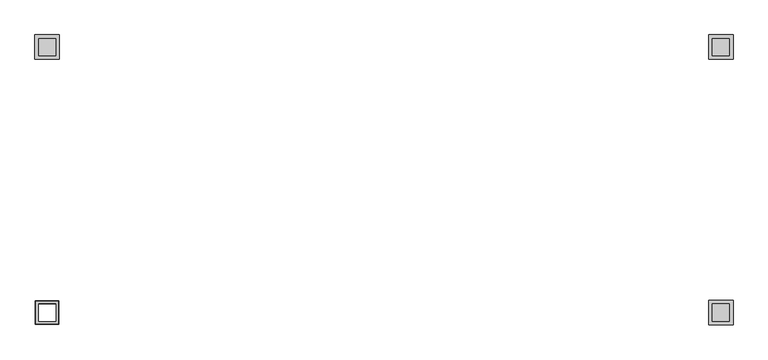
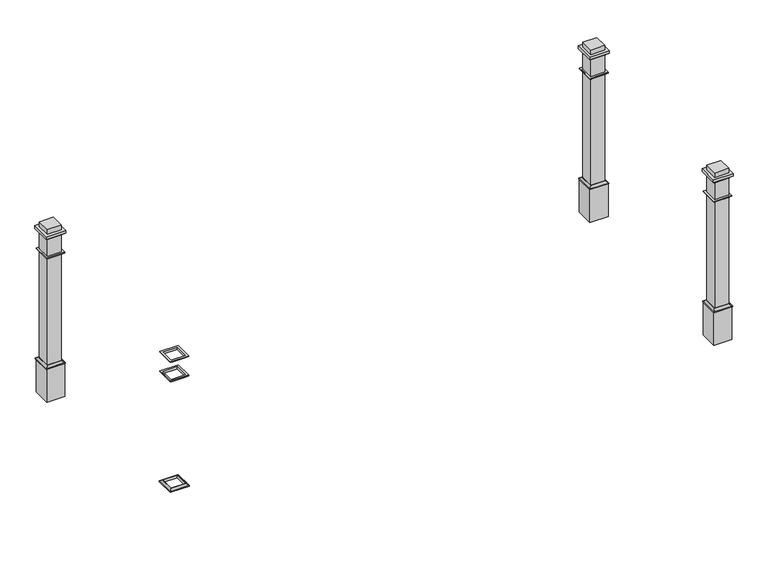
"""IFC4 building model written with IfcOpenShell, lengths in millimetres: railing geometry, Deco Type."""

from ifc_helpers import new_model, si_unit, frame, origin, place, context, project, spatial, polyline, ellipse_curve, outline, extrude, faceted_brep, source, transform, mapped, element, save
from ifc_brep_helpers import plane_surface, revolved_surface, advanced_brep


def railing_b1776e66(model_context):
    return source(origin(), model_context, "Body", "SolidModel", [
        advanced_brep(
        [(5407.8905852, -9796.5505549, 101.6), (5287.2405852, -9796.5505549, 101.6), (5287.2405852, -9796.5505549, 123.825), (5407.8905852, -9796.5505549, 123.825), (5430.1155852, -9818.7755549, 107.95), (5265.0155852, -9818.7755549, 107.95), (5265.0155852, -9818.7755549, 101.6), (5430.1155852, -9818.7755549, 101.6), (5414.2405852, -9802.9005549, 123.825), (5280.8905852, -9802.9005549, 123.825), (5287.2405852, -9675.9005549, 101.6), (5287.2405852, -9675.9005549, 123.825), (5265.0155852, -9653.6755549, 107.95), (5265.0155852, -9653.6755549, 101.6), (5280.8905852, -9669.5505549, 123.825), (5407.8905852, -9675.9005549, 101.6), (5407.8905852, -9675.9005549, 123.825), (5430.1155852, -9653.6755549, 107.95), (5430.1155852, -9653.6755549, 101.6), (5414.2405852, -9669.5505549, 123.825)],
        [
            (0, 1),
            (1, 2),
            (2, 3),
            (3, 0),
            (4, 5),
            (5, 6),
            (6, 7),
            (7, 4),
            (8, 9),
            (9, 5, ellipse_curve(frame((5265.0155852, -9818.7755549, 123.825), z_axis=(-0.7071067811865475, 0.7071067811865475, 0.0), x_axis=(-0.7071067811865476, -0.7071067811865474, 0.0)), 22.4506403, 15.875)),
            (4, 8, ellipse_curve(frame((5430.1155852, -9818.7755549, 123.825), z_axis=(0.7071067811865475, 0.7071067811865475, 0.0), x_axis=(-0.7071067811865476, 0.7071067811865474, 0.0)), 22.4506403, 15.875)),
            (1, 10),
            (10, 11),
            (11, 2),
            (5, 12),
            (12, 13),
            (13, 6),
            (9, 14),
            (14, 12, ellipse_curve(frame((5265.0155852, -9653.6755549, 123.825), z_axis=(0.7071067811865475, 0.7071067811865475, 0.0), x_axis=(-0.7071067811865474, 0.7071067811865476, 0.0)), 22.4506403, 15.875)),
            (10, 15),
            (15, 16),
            (16, 11),
            (12, 17),
            (17, 18),
            (18, 13),
            (14, 19),
            (19, 17, ellipse_curve(frame((5430.1155852, -9653.6755549, 123.825), z_axis=(0.7071067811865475, -0.7071067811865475, 0.0), x_axis=(0.7071067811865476, 0.7071067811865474, 0.0)), 22.4506403, 15.875)),
            (15, 0),
            (3, 16),
            (18, 7),
            (17, 4),
            (19, 8),
        ],
        [
            plane_surface(frame((5407.8905852, -9796.5505549, 123.825), z_axis=(0.0, 1.0, 0.0), x_axis=(-1.0, 0.0, 0.0))),
            plane_surface(frame((5430.1155852, -9818.7755549, 101.6), z_axis=(0.0, -1.0, 0.0), x_axis=(-1.0, 0.0, 0.0))),
            revolved_surface(polyline([(5249.14058520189, -9802.9005549, 123.825), (5445.99058519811, -9802.9005549, 123.825)]), (5407.8905852, -9818.7755549, 123.825), (-1.0, 0.0, 0.0)),
            plane_surface(frame((5287.2405852, -9796.5505549, 123.825), z_axis=(1.0, 0.0, 0.0), x_axis=(0.0, 1.0, 0.0))),
            plane_surface(frame((5265.0155852, -9818.7755549, 101.6), z_axis=(-1.0, 0.0, 0.0), x_axis=(0.0, 1.0, 0.0))),
            revolved_surface(polyline([(5280.8905852, -9637.80055490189, 123.825), (5280.8905852, -9834.65055489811, 123.825)]), (5265.0155852, -9796.5505549, 123.825), (0.0, 1.0, 0.0)),
            plane_surface(frame((5287.2405852, -9675.9005549, 123.825), z_axis=(0.0, -1.0, 0.0), x_axis=(1.0, 0.0, 0.0))),
            plane_surface(frame((5265.0155852, -9653.6755549, 101.6), z_axis=(0.0, 1.0, 0.0), x_axis=(1.0, 0.0, 0.0))),
            revolved_surface(polyline([(5445.99058519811, -9669.5505549, 123.825), (5249.14058520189, -9669.5505549, 123.825)]), (5287.2405852, -9653.6755549, 123.825), (1.0, 0.0, 0.0)),
            plane_surface(frame((5407.8905852, -9675.9005549, 123.825), z_axis=(-1.0, 0.0, 0.0), x_axis=(0.0, -1.0, 0.0))),
            plane_surface(frame((5407.8905852, -9675.9005549, 101.6), z_axis=(0.0, 0.0, -1.0), x_axis=(0.0, -1.0, 0.0))),
            plane_surface(frame((5430.1155852, -9653.6755549, 101.6), z_axis=(1.0, 0.0, 0.0), x_axis=(0.0, -1.0, 0.0))),
            revolved_surface(polyline([(5414.2405852, -9834.65055489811, 123.825), (5414.2405852, -9637.80055490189, 123.825)]), (5430.1155852, -9675.9005549, 123.825), (0.0, -1.0, 0.0)),
            plane_surface(frame((5414.2405852, -9669.5505549, 123.825), z_axis=(0.0, 0.0, 1.0), x_axis=(0.0, -1.0, 0.0))),
        ],
        [
            (0, [[1, 2, 3, 4]]),
            (1, [[5, 6, 7, 8]]),
            (2, [[9, 10, -5, 11]]),
            (3, [[12, 13, 14, -2]]),
            (4, [[15, 16, 17, -6]]),
            (5, [[18, 19, -15, -10]]),
            (6, [[20, 21, 22, -13]]),
            (7, [[23, 24, 25, -16]]),
            (8, [[26, 27, -23, -19]]),
            (9, [[28, -4, 29, -21]]),
            (10, [[-7, -17, -25, 30], [-1, -28, -20, -12]]),
            (11, [[31, -8, -30, -24]]),
            (12, [[32, -11, -31, -27]]),
            (13, [[-9, -32, -26, -18], [-3, -14, -22, -29]]),
        ],
    ),
        advanced_brep(
        [(5407.8905852, -9796.5505549, 1108.075), (5287.2405852, -9796.5505549, 1108.075), (5287.2405852, -9796.5505549, 1127.125), (5407.8905852, -9796.5505549, 1127.125), (5426.9405852, -9815.6005549, 1120.775), (5268.1905852, -9815.6005549, 1120.775), (5280.8905852, -9802.9005549, 1108.075), (5414.2405852, -9802.9005549, 1108.075), (5426.9405852, -9815.6005549, 1127.125), (5268.1905852, -9815.6005549, 1127.125), (5287.2405852, -9675.9005549, 1108.075), (5287.2405852, -9675.9005549, 1127.125), (5268.1905852, -9656.8505549, 1120.775), (5280.8905852, -9669.5505549, 1108.075), (5268.1905852, -9656.8505549, 1127.125), (5407.8905852, -9675.9005549, 1108.075), (5407.8905852, -9675.9005549, 1127.125), (5426.9405852, -9656.8505549, 1120.775), (5414.2405852, -9669.5505549, 1108.075), (5426.9405852, -9656.8505549, 1127.125)],
        [
            (0, 1),
            (1, 2),
            (2, 3),
            (3, 0),
            (4, 5),
            (5, 6, ellipse_curve(frame((5268.1905852, -9815.6005549, 1108.075), z_axis=(-0.7071067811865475, 0.7071067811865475, 0.0), x_axis=(-0.7071067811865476, -0.7071067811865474, 0.0)), 17.9605122, 12.7)),
            (6, 7),
            (7, 4, ellipse_curve(frame((5426.9405852, -9815.6005549, 1108.075), z_axis=(0.7071067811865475, 0.7071067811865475, 0.0), x_axis=(-0.7071067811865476, 0.7071067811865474, 0.0)), 17.9605122, 12.7)),
            (8, 9),
            (9, 5),
            (4, 8),
            (1, 10),
            (10, 11),
            (11, 2),
            (5, 12),
            (12, 13, ellipse_curve(frame((5268.1905852, -9656.8505549, 1108.075), z_axis=(0.7071067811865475, 0.7071067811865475, 0.0), x_axis=(-0.7071067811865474, 0.7071067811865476, 0.0)), 17.9605122, 12.7)),
            (13, 6),
            (9, 14),
            (14, 12),
            (10, 15),
            (15, 16),
            (16, 11),
            (12, 17),
            (17, 18, ellipse_curve(frame((5426.9405852, -9656.8505549, 1108.075), z_axis=(0.7071067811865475, -0.7071067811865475, 0.0), x_axis=(0.7071067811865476, 0.7071067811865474, 0.0)), 17.9605122, 12.7)),
            (18, 13),
            (14, 19),
            (19, 17),
            (8, 19),
            (16, 3),
            (15, 0),
            (18, 7),
            (17, 4),
        ],
        [
            plane_surface(frame((5407.8905852, -9796.5505549, 1127.125), z_axis=(0.0, 1.0, 0.0), x_axis=(-1.0, 0.0, 0.0))),
            revolved_surface(polyline([(5255.490585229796, -9802.9005549, 1108.075), (5439.640585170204, -9802.9005549, 1108.075)]), (5407.8905852, -9815.6005549, 1108.075), (-1.0, 0.0, 0.0)),
            plane_surface(frame((5426.9405852, -9815.6005549, 1120.775), z_axis=(0.0, -1.0, 0.0), x_axis=(-1.0, 0.0, 0.0))),
            plane_surface(frame((5287.2405852, -9796.5505549, 1127.125), z_axis=(1.0, 0.0, 0.0), x_axis=(0.0, 1.0, 0.0))),
            revolved_surface(polyline([(5280.8905852, -9644.150554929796, 1108.075), (5280.8905852, -9828.300554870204, 1108.075)]), (5268.1905852, -9796.5505549, 1108.075), (0.0, 1.0, 0.0)),
            plane_surface(frame((5268.1905852, -9815.6005549, 1120.775), z_axis=(-1.0, 0.0, 0.0), x_axis=(0.0, 1.0, 0.0))),
            plane_surface(frame((5287.2405852, -9675.9005549, 1127.125), z_axis=(0.0, -1.0, 0.0), x_axis=(1.0, 0.0, 0.0))),
            revolved_surface(polyline([(5439.640585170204, -9669.5505549, 1108.075), (5255.490585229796, -9669.5505549, 1108.075)]), (5287.2405852, -9656.8505549, 1108.075), (1.0, 0.0, 0.0)),
            plane_surface(frame((5268.1905852, -9656.8505549, 1120.775), z_axis=(0.0, 1.0, 0.0), x_axis=(1.0, 0.0, 0.0))),
            plane_surface(frame((5426.9405852, -9656.8505549, 1127.125), z_axis=(0.0, 0.0, 1.0), x_axis=(0.0, -1.0, 0.0))),
            plane_surface(frame((5407.8905852, -9675.9005549, 1127.125), z_axis=(-1.0, 0.0, 0.0), x_axis=(0.0, -1.0, 0.0))),
            plane_surface(frame((5407.8905852, -9675.9005549, 1108.075), z_axis=(0.0, 0.0, -1.0), x_axis=(0.0, -1.0, 0.0))),
            revolved_surface(polyline([(5414.2405852, -9828.300554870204, 1108.075), (5414.2405852, -9644.150554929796, 1108.075)]), (5426.9405852, -9675.9005549, 1108.075), (0.0, -1.0, 0.0)),
            plane_surface(frame((5426.9405852, -9656.8505549, 1120.775), z_axis=(1.0, 0.0, 0.0), x_axis=(0.0, -1.0, 0.0))),
        ],
        [
            (0, [[1, 2, 3, 4]]),
            (1, [[5, 6, 7, 8]]),
            (2, [[9, 10, -5, 11]]),
            (3, [[12, 13, 14, -2]]),
            (4, [[15, 16, 17, -6]]),
            (5, [[18, 19, -15, -10]]),
            (6, [[20, 21, 22, -13]]),
            (7, [[23, 24, 25, -16]]),
            (8, [[26, 27, -23, -19]]),
            (9, [[-9, 28, -26, -18], [-3, -14, -22, 29]]),
            (10, [[30, -4, -29, -21]]),
            (11, [[-7, -17, -25, 31], [-1, -30, -20, -12]]),
            (12, [[32, -8, -31, -24]]),
            (13, [[-28, -11, -32, -27]]),
        ],
    ),
        faceted_brep([(5407.8905852, -9796.5505549, 1285.875), (5287.2405852, -9796.5505549, 1285.875), (5287.2405852, -9796.5505549, 1304.925), (5407.8905852, -9796.5505549, 1304.925), (5414.2405852, -9802.9005549, 1298.575), (5280.8905852, -9802.9005549, 1298.575), (5280.8905852, -9802.9005549, 1285.875), (5414.2405852, -9802.9005549, 1285.875), (5426.9405852, -9815.6005549, 1304.925), (5268.1905852, -9815.6005549, 1304.925), (5268.1905852, -9815.6005549, 1298.575), (5426.9405852, -9815.6005549, 1298.575), (5287.2405852, -9675.9005549, 1285.875), (5287.2405852, -9675.9005549, 1304.925), (5280.8905852, -9669.5505549, 1298.575), (5280.8905852, -9669.5505549, 1285.875), (5268.1905852, -9656.8505549, 1304.925), (5268.1905852, -9656.8505549, 1298.575), (5407.8905852, -9675.9005549, 1285.875), (5407.8905852, -9675.9005549, 1304.925), (5414.2405852, -9669.5505549, 1298.575), (5414.2405852, -9669.5505549, 1285.875), (5426.9405852, -9656.8505549, 1304.925), (5426.9405852, -9656.8505549, 1298.575)], [[[0, 1, 2, 3]], [[4, 5, 6, 7]], [[8, 9, 10, 11]], [[1, 12, 13, 2]], [[5, 14, 15, 6]], [[9, 16, 17, 10]], [[12, 18, 19, 13]], [[14, 20, 21, 15]], [[16, 22, 23, 17]], [[18, 0, 3, 19]], [[7, 6, 15, 21], [1, 0, 18, 12]], [[20, 4, 7, 21]], [[11, 10, 17, 23], [5, 4, 20, 14]], [[22, 8, 11, 23]], [[9, 8, 22, 16], [3, 2, 13, 19]]]),
        extrude(outline(polyline([(10010.8468352, -9656.8505549), (10169.5968352, -9656.8505549), (10169.5968352, -9815.6005549), (10010.8468352, -9815.6005549), (10010.8468352, -9656.8505549)])), frame((0.0, 0.0, -203.2), z_axis=(0.0, 0.0, 1.0), x_axis=(1.0, 0.0, 0.0)), (0.0, 0.0, 1.0), 304.8),
        extrude(outline(polyline([(10029.8968352, -9675.9005549), (10150.5468352, -9675.9005549), (10150.5468352, -9796.5505549), (10029.8968352, -9796.5505549), (10029.8968352, -9675.9005549)])), frame((0.0, 0.0, 101.6), z_axis=(0.0, 0.0, 1.0), x_axis=(1.0, 0.0, 0.0)), (0.0, 0.0, 1.0), 1270.0),
        extrude(outline(polyline([(10175.9468352, -9650.5005549), (10175.9468352, -9821.9505549), (10004.4968352, -9821.9505549), (10004.4968352, -9650.5005549), (10175.9468352, -9650.5005549)]), holes=[polyline([(10150.5468352, -9796.5505549), (10150.5468352, -9675.9005549), (10029.8968352, -9675.9005549), (10029.8968352, -9796.5505549), (10150.5468352, -9796.5505549)])]), frame((0.0, 0.0, 1304.925), z_axis=(0.0, 0.0, 1.0), x_axis=(1.0, 0.0, 0.0)), (0.0, 0.0, 1.0), 25.4),
        advanced_brep(
        [(10150.5468352, -9675.9005549, 101.6), (10150.5468352, -9796.5505549, 101.6), (10150.5468352, -9796.5505549, 123.825), (10150.5468352, -9675.9005549, 123.825), (10172.7718352, -9653.6755549, 107.95), (10172.7718352, -9818.7755549, 107.95), (10172.7718352, -9818.7755549, 101.6), (10172.7718352, -9653.6755549, 101.6), (10156.8968352, -9669.5505549, 123.825), (10156.8968352, -9802.9005549, 123.825), (10029.8968352, -9796.5505549, 101.6), (10029.8968352, -9796.5505549, 123.825), (10007.6718352, -9818.7755549, 107.95), (10007.6718352, -9818.7755549, 101.6), (10023.5468352, -9802.9005549, 123.825), (10029.8968352, -9675.9005549, 101.6), (10029.8968352, -9675.9005549, 123.825), (10007.6718352, -9653.6755549, 107.95), (10007.6718352, -9653.6755549, 101.6), (10023.5468352, -9669.5505549, 123.825)],
        [
            (0, 1),
            (1, 2),
            (2, 3),
            (3, 0),
            (4, 5),
            (5, 6),
            (6, 7),
            (7, 4),
            (8, 9),
            (9, 5, ellipse_curve(frame((10172.7718352, -9818.7755549, 123.825), z_axis=(-0.7071067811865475, -0.7071067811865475, 0.0), x_axis=(0.7071067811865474, -0.7071067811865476, 0.0)), 22.4506403, 15.875)),
            (4, 8, ellipse_curve(frame((10172.7718352, -9653.6755549, 123.825), z_axis=(-0.7071067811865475, 0.7071067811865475, 0.0), x_axis=(-0.7071067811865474, -0.7071067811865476, 0.0)), 22.4506403, 15.875)),
            (1, 10),
            (10, 11),
            (11, 2),
            (5, 12),
            (12, 13),
            (13, 6),
            (9, 14),
            (14, 12, ellipse_curve(frame((10007.6718352, -9818.7755549, 123.825), z_axis=(-0.7071067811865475, 0.7071067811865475, 0.0), x_axis=(-0.7071067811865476, -0.7071067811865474, 0.0)), 22.4506403, 15.875)),
            (10, 15),
            (15, 16),
            (16, 11),
            (12, 17),
            (17, 18),
            (18, 13),
            (14, 19),
            (19, 17, ellipse_curve(frame((10007.6718352, -9653.6755549, 123.825), z_axis=(0.7071067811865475, 0.7071067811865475, 0.0), x_axis=(-0.7071067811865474, 0.7071067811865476, 0.0)), 22.4506403, 15.875)),
            (15, 0),
            (3, 16),
            (18, 7),
            (17, 4),
            (19, 8),
        ],
        [
            plane_surface(frame((10150.5468352, -9675.9005549, 123.825), z_axis=(-1.0, 0.0, 0.0), x_axis=(0.0, -1.0, 0.0))),
            plane_surface(frame((10172.7718352, -9653.6755549, 101.6), z_axis=(1.0, 0.0, 0.0), x_axis=(0.0, -1.0, 0.0))),
            revolved_surface(polyline([(10156.8968352, -9834.65055489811, 123.825), (10156.8968352, -9637.80055490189, 123.825)]), (10172.7718352, -9675.9005549, 123.825), (0.0, -1.0, 0.0)),
            plane_surface(frame((10150.5468352, -9796.5505549, 123.825), z_axis=(0.0, 1.0, 0.0), x_axis=(-1.0, 0.0, 0.0))),
            plane_surface(frame((10172.7718352, -9818.7755549, 101.6), z_axis=(0.0, -1.0, 0.0), x_axis=(-1.0, 0.0, 0.0))),
            revolved_surface(polyline([(9991.79683520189, -9802.9005549, 123.825), (10188.64683519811, -9802.9005549, 123.825)]), (10150.5468352, -9818.7755549, 123.825), (-1.0, 0.0, 0.0)),
            plane_surface(frame((10029.8968352, -9796.5505549, 123.825), z_axis=(1.0, 0.0, 0.0), x_axis=(0.0, 1.0, 0.0))),
            plane_surface(frame((10007.6718352, -9818.7755549, 101.6), z_axis=(-1.0, 0.0, 0.0), x_axis=(0.0, 1.0, 0.0))),
            revolved_surface(polyline([(10023.5468352, -9637.80055490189, 123.825), (10023.5468352, -9834.65055489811, 123.825)]), (10007.6718352, -9796.5505549, 123.825), (0.0, 1.0, 0.0)),
            plane_surface(frame((10029.8968352, -9675.9005549, 123.825), z_axis=(0.0, -1.0, 0.0), x_axis=(1.0, 0.0, 0.0))),
            plane_surface(frame((10029.8968352, -9675.9005549, 101.6), z_axis=(0.0, 0.0, -1.0), x_axis=(1.0, 0.0, 0.0))),
            plane_surface(frame((10007.6718352, -9653.6755549, 101.6), z_axis=(0.0, 1.0, 0.0), x_axis=(1.0, 0.0, 0.0))),
            revolved_surface(polyline([(10188.64683519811, -9669.5505549, 123.825), (9991.79683520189, -9669.5505549, 123.825)]), (10029.8968352, -9653.6755549, 123.825), (1.0, 0.0, 0.0)),
            plane_surface(frame((10023.5468352, -9669.5505549, 123.825), z_axis=(0.0, 0.0, 1.0), x_axis=(1.0, 0.0, 0.0))),
        ],
        [
            (0, [[1, 2, 3, 4]]),
            (1, [[5, 6, 7, 8]]),
            (2, [[9, 10, -5, 11]]),
            (3, [[12, 13, 14, -2]]),
            (4, [[15, 16, 17, -6]]),
            (5, [[18, 19, -15, -10]]),
            (6, [[20, 21, 22, -13]]),
            (7, [[23, 24, 25, -16]]),
            (8, [[26, 27, -23, -19]]),
            (9, [[28, -4, 29, -21]]),
            (10, [[-7, -17, -25, 30], [-1, -28, -20, -12]]),
            (11, [[31, -8, -30, -24]]),
            (12, [[32, -11, -31, -27]]),
            (13, [[-9, -32, -26, -18], [-3, -14, -22, -29]]),
        ],
    ),
        advanced_brep(
        [(10150.5468352, -9675.9005549, 1108.075), (10150.5468352, -9796.5505549, 1108.075), (10150.5468352, -9796.5505549, 1127.125), (10150.5468352, -9675.9005549, 1127.125), (10169.5968352, -9656.8505549, 1120.775), (10169.5968352, -9815.6005549, 1120.775), (10156.8968352, -9802.9005549, 1108.075), (10156.8968352, -9669.5505549, 1108.075), (10169.5968352, -9656.8505549, 1127.125), (10169.5968352, -9815.6005549, 1127.125), (10029.8968352, -9796.5505549, 1108.075), (10029.8968352, -9796.5505549, 1127.125), (10010.8468352, -9815.6005549, 1120.775), (10023.5468352, -9802.9005549, 1108.075), (10010.8468352, -9815.6005549, 1127.125), (10029.8968352, -9675.9005549, 1108.075), (10029.8968352, -9675.9005549, 1127.125), (10010.8468352, -9656.8505549, 1120.775), (10023.5468352, -9669.5505549, 1108.075), (10010.8468352, -9656.8505549, 1127.125)],
        [
            (0, 1),
            (1, 2),
            (2, 3),
            (3, 0),
            (4, 5),
            (5, 6, ellipse_curve(frame((10169.5968352, -9815.6005549, 1108.075), z_axis=(-0.7071067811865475, -0.7071067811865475, 0.0), x_axis=(0.7071067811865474, -0.7071067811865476, 0.0)), 17.9605122, 12.7)),
            (6, 7),
            (7, 4, ellipse_curve(frame((10169.5968352, -9656.8505549, 1108.075), z_axis=(-0.7071067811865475, 0.7071067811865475, 0.0), x_axis=(-0.7071067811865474, -0.7071067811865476, 0.0)), 17.9605122, 12.7)),
            (8, 9),
            (9, 5),
            (4, 8),
            (1, 10),
            (10, 11),
            (11, 2),
            (5, 12),
            (12, 13, ellipse_curve(frame((10010.8468352, -9815.6005549, 1108.075), z_axis=(-0.7071067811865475, 0.7071067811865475, 0.0), x_axis=(-0.7071067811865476, -0.7071067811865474, 0.0)), 17.9605122, 12.7)),
            (13, 6),
            (9, 14),
            (14, 12),
            (10, 15),
            (15, 16),
            (16, 11),
            (12, 17),
            (17, 18, ellipse_curve(frame((10010.8468352, -9656.8505549, 1108.075), z_axis=(0.7071067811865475, 0.7071067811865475, 0.0), x_axis=(-0.7071067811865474, 0.7071067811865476, 0.0)), 17.9605122, 12.7)),
            (18, 13),
            (14, 19),
            (19, 17),
            (8, 19),
            (16, 3),
            (15, 0),
            (18, 7),
            (17, 4),
        ],
        [
            plane_surface(frame((10150.5468352, -9675.9005549, 1127.125), z_axis=(-1.0, 0.0, 0.0), x_axis=(0.0, -1.0, 0.0))),
            revolved_surface(polyline([(10156.8968352, -9828.300554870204, 1108.075), (10156.8968352, -9644.150554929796, 1108.075)]), (10169.5968352, -9675.9005549, 1108.075), (0.0, -1.0, 0.0)),
            plane_surface(frame((10169.5968352, -9656.8505549, 1120.775), z_axis=(1.0, 0.0, 0.0), x_axis=(0.0, -1.0, 0.0))),
            plane_surface(frame((10150.5468352, -9796.5505549, 1127.125), z_axis=(0.0, 1.0, 0.0), x_axis=(-1.0, 0.0, 0.0))),
            revolved_surface(polyline([(9998.146835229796, -9802.9005549, 1108.075), (10182.296835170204, -9802.9005549, 1108.075)]), (10150.5468352, -9815.6005549, 1108.075), (-1.0, 0.0, 0.0)),
            plane_surface(frame((10169.5968352, -9815.6005549, 1120.775), z_axis=(0.0, -1.0, 0.0), x_axis=(-1.0, 0.0, 0.0))),
            plane_surface(frame((10029.8968352, -9796.5505549, 1127.125), z_axis=(1.0, 0.0, 0.0), x_axis=(0.0, 1.0, 0.0))),
            revolved_surface(polyline([(10023.5468352, -9644.150554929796, 1108.075), (10023.5468352, -9828.300554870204, 1108.075)]), (10010.8468352, -9796.5505549, 1108.075), (0.0, 1.0, 0.0)),
            plane_surface(frame((10010.8468352, -9815.6005549, 1120.775), z_axis=(-1.0, 0.0, 0.0), x_axis=(0.0, 1.0, 0.0))),
            plane_surface(frame((10010.8468352, -9656.8505549, 1127.125), z_axis=(0.0, 0.0, 1.0), x_axis=(1.0, 0.0, 0.0))),
            plane_surface(frame((10029.8968352, -9675.9005549, 1127.125), z_axis=(0.0, -1.0, 0.0), x_axis=(1.0, 0.0, 0.0))),
            plane_surface(frame((10029.8968352, -9675.9005549, 1108.075), z_axis=(0.0, 0.0, -1.0), x_axis=(1.0, 0.0, 0.0))),
            revolved_surface(polyline([(10182.296835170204, -9669.5505549, 1108.075), (9998.146835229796, -9669.5505549, 1108.075)]), (10029.8968352, -9656.8505549, 1108.075), (1.0, 0.0, 0.0)),
            plane_surface(frame((10010.8468352, -9656.8505549, 1120.775), z_axis=(0.0, 1.0, 0.0), x_axis=(1.0, 0.0, 0.0))),
        ],
        [
            (0, [[1, 2, 3, 4]]),
            (1, [[5, 6, 7, 8]]),
            (2, [[9, 10, -5, 11]]),
            (3, [[12, 13, 14, -2]]),
            (4, [[15, 16, 17, -6]]),
            (5, [[18, 19, -15, -10]]),
            (6, [[20, 21, 22, -13]]),
            (7, [[23, 24, 25, -16]]),
            (8, [[26, 27, -23, -19]]),
            (9, [[-9, 28, -26, -18], [-3, -14, -22, 29]]),
            (10, [[30, -4, -29, -21]]),
            (11, [[-7, -17, -25, 31], [-1, -30, -20, -12]]),
            (12, [[32, -8, -31, -24]]),
            (13, [[-28, -11, -32, -27]]),
        ],
    ),
        faceted_brep([(10150.5468352, -9675.9005549, 1285.875), (10150.5468352, -9796.5505549, 1285.875), (10150.5468352, -9796.5505549, 1304.925), (10150.5468352, -9675.9005549, 1304.925), (10156.8968352, -9669.5505549, 1298.575), (10156.8968352, -9802.9005549, 1298.575), (10156.8968352, -9802.9005549, 1285.875), (10156.8968352, -9669.5505549, 1285.875), (10169.5968352, -9656.8505549, 1304.925), (10169.5968352, -9815.6005549, 1304.925), (10169.5968352, -9815.6005549, 1298.575), (10169.5968352, -9656.8505549, 1298.575), (10029.8968352, -9796.5505549, 1285.875), (10029.8968352, -9796.5505549, 1304.925), (10023.5468352, -9802.9005549, 1298.575), (10023.5468352, -9802.9005549, 1285.875), (10010.8468352, -9815.6005549, 1304.925), (10010.8468352, -9815.6005549, 1298.575), (10029.8968352, -9675.9005549, 1285.875), (10029.8968352, -9675.9005549, 1304.925), (10023.5468352, -9669.5505549, 1298.575), (10023.5468352, -9669.5505549, 1285.875), (10010.8468352, -9656.8505549, 1304.925), (10010.8468352, -9656.8505549, 1298.575)], [[[0, 1, 2, 3]], [[4, 5, 6, 7]], [[8, 9, 10, 11]], [[1, 12, 13, 2]], [[5, 14, 15, 6]], [[9, 16, 17, 10]], [[12, 18, 19, 13]], [[14, 20, 21, 15]], [[16, 22, 23, 17]], [[18, 0, 3, 19]], [[7, 6, 15, 21], [1, 0, 18, 12]], [[20, 4, 7, 21]], [[11, 10, 17, 23], [5, 4, 20, 14]], [[22, 8, 11, 23]], [[9, 8, 22, 16], [3, 2, 13, 19]]]),
        extrude(outline(polyline([(5426.9405852, -7943.5411799), (5268.1905852, -7943.5411799), (5268.1905852, -7784.7911799), (5426.9405852, -7784.7911799), (5426.9405852, -7943.5411799)])), frame((0.0, 0.0, -203.2), z_axis=(0.0, 0.0, 1.0), x_axis=(1.0, 0.0, 0.0)), (0.0, 0.0, 1.0), 304.8),
        extrude(outline(polyline([(5407.8905852, -7924.4911799), (5287.2405852, -7924.4911799), (5287.2405852, -7803.8411799), (5407.8905852, -7803.8411799), (5407.8905852, -7924.4911799)])), frame((0.0, 0.0, 101.6), z_axis=(0.0, 0.0, 1.0), x_axis=(1.0, 0.0, 0.0)), (0.0, 0.0, 1.0), 1270.0),
        extrude(outline(polyline([(5261.8405852, -7949.8911799), (5261.8405852, -7778.4411799), (5433.2905852, -7778.4411799), (5433.2905852, -7949.8911799), (5261.8405852, -7949.8911799)]), holes=[polyline([(5287.2405852, -7803.8411799), (5287.2405852, -7924.4911799), (5407.8905852, -7924.4911799), (5407.8905852, -7803.8411799), (5287.2405852, -7803.8411799)])]), frame((0.0, 0.0, 1304.925), z_axis=(0.0, 0.0, 1.0), x_axis=(1.0, 0.0, 0.0)), (0.0, 0.0, 1.0), 25.4),
        advanced_brep(
        [(5287.2405852, -7924.4911799, 101.6), (5287.2405852, -7803.8411799, 101.6), (5287.2405852, -7803.8411799, 123.825), (5287.2405852, -7924.4911799, 123.825), (5265.0155852, -7946.7161799, 107.95), (5265.0155852, -7781.6161799, 107.95), (5265.0155852, -7781.6161799, 101.6), (5265.0155852, -7946.7161799, 101.6), (5280.8905852, -7930.8411799, 123.825), (5280.8905852, -7797.4911799, 123.825), (5407.8905852, -7803.8411799, 101.6), (5407.8905852, -7803.8411799, 123.825), (5430.1155852, -7781.6161799, 107.95), (5430.1155852, -7781.6161799, 101.6), (5414.2405852, -7797.4911799, 123.825), (5407.8905852, -7924.4911799, 101.6), (5407.8905852, -7924.4911799, 123.825), (5430.1155852, -7946.7161799, 107.95), (5430.1155852, -7946.7161799, 101.6), (5414.2405852, -7930.8411799, 123.825)],
        [
            (0, 1),
            (1, 2),
            (2, 3),
            (3, 0),
            (4, 5),
            (5, 6),
            (6, 7),
            (7, 4),
            (8, 9),
            (9, 5, ellipse_curve(frame((5265.0155852, -7781.6161799, 123.825), z_axis=(0.7071067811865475, 0.7071067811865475, 0.0), x_axis=(-0.7071067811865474, 0.7071067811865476, 0.0)), 22.4506403, 15.875)),
            (4, 8, ellipse_curve(frame((5265.0155852, -7946.7161799, 123.825), z_axis=(0.7071067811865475, -0.7071067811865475, 0.0), x_axis=(0.7071067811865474, 0.7071067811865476, 0.0)), 22.4506403, 15.875)),
            (1, 10),
            (10, 11),
            (11, 2),
            (5, 12),
            (12, 13),
            (13, 6),
            (9, 14),
            (14, 12, ellipse_curve(frame((5430.1155852, -7781.6161799, 123.825), z_axis=(0.7071067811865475, -0.7071067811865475, 0.0), x_axis=(0.7071067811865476, 0.7071067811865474, 0.0)), 22.4506403, 15.875)),
            (10, 15),
            (15, 16),
            (16, 11),
            (12, 17),
            (17, 18),
            (18, 13),
            (14, 19),
            (19, 17, ellipse_curve(frame((5430.1155852, -7946.7161799, 123.825), z_axis=(-0.7071067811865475, -0.7071067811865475, 0.0), x_axis=(0.7071067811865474, -0.7071067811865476, 0.0)), 22.4506403, 15.875)),
            (15, 0),
            (3, 16),
            (18, 7),
            (17, 4),
            (19, 8),
        ],
        [
            plane_surface(frame((5287.2405852, -7924.4911799, 123.825), z_axis=(1.0, 0.0, 0.0), x_axis=(0.0, 1.0, 0.0))),
            plane_surface(frame((5265.0155852, -7946.7161799, 101.6), z_axis=(-1.0, 0.0, 0.0), x_axis=(0.0, 1.0, 0.0))),
            revolved_surface(polyline([(5280.8905852, -7765.74117990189, 123.825), (5280.8905852, -7962.59117989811, 123.825)]), (5265.0155852, -7924.4911799, 123.825), (0.0, 1.0, 0.0)),
            plane_surface(frame((5287.2405852, -7803.8411799, 123.825), z_axis=(0.0, -1.0, 0.0), x_axis=(1.0, 0.0, 0.0))),
            plane_surface(frame((5265.0155852, -7781.6161799, 101.6), z_axis=(0.0, 1.0, 0.0), x_axis=(1.0, 0.0, 0.0))),
            revolved_surface(polyline([(5445.99058519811, -7797.4911799, 123.825), (5249.14058520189, -7797.4911799, 123.825)]), (5287.2405852, -7781.6161799, 123.825), (1.0, 0.0, 0.0)),
            plane_surface(frame((5407.8905852, -7803.8411799, 123.825), z_axis=(-1.0, 0.0, 0.0), x_axis=(0.0, -1.0, 0.0))),
            plane_surface(frame((5430.1155852, -7781.6161799, 101.6), z_axis=(1.0, 0.0, 0.0), x_axis=(0.0, -1.0, 0.0))),
            revolved_surface(polyline([(5414.2405852, -7962.59117989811, 123.825), (5414.2405852, -7765.74117990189, 123.825)]), (5430.1155852, -7803.8411799, 123.825), (0.0, -1.0, 0.0)),
            plane_surface(frame((5407.8905852, -7924.4911799, 123.825), z_axis=(0.0, 1.0, 0.0), x_axis=(-1.0, 0.0, 0.0))),
            plane_surface(frame((5407.8905852, -7924.4911799, 101.6), z_axis=(0.0, 0.0, -1.0), x_axis=(-1.0, 0.0, 0.0))),
            plane_surface(frame((5430.1155852, -7946.7161799, 101.6), z_axis=(0.0, -1.0, 0.0), x_axis=(-1.0, 0.0, 0.0))),
            revolved_surface(polyline([(5249.14058520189, -7930.8411799, 123.825), (5445.99058519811, -7930.8411799, 123.825)]), (5407.8905852, -7946.7161799, 123.825), (-1.0, 0.0, 0.0)),
            plane_surface(frame((5414.2405852, -7930.8411799, 123.825), z_axis=(0.0, 0.0, 1.0), x_axis=(-1.0, 0.0, 0.0))),
        ],
        [
            (0, [[1, 2, 3, 4]]),
            (1, [[5, 6, 7, 8]]),
            (2, [[9, 10, -5, 11]]),
            (3, [[12, 13, 14, -2]]),
            (4, [[15, 16, 17, -6]]),
            (5, [[18, 19, -15, -10]]),
            (6, [[20, 21, 22, -13]]),
            (7, [[23, 24, 25, -16]]),
            (8, [[26, 27, -23, -19]]),
            (9, [[28, -4, 29, -21]]),
            (10, [[-7, -17, -25, 30], [-1, -28, -20, -12]]),
            (11, [[31, -8, -30, -24]]),
            (12, [[32, -11, -31, -27]]),
            (13, [[-9, -32, -26, -18], [-3, -14, -22, -29]]),
        ],
    ),
        advanced_brep(
        [(5287.2405852, -7924.4911799, 1108.075), (5287.2405852, -7803.8411799, 1108.075), (5287.2405852, -7803.8411799, 1127.125), (5287.2405852, -7924.4911799, 1127.125), (5268.1905852, -7943.5411799, 1120.775), (5268.1905852, -7784.7911799, 1120.775), (5280.8905852, -7797.4911799, 1108.075), (5280.8905852, -7930.8411799, 1108.075), (5268.1905852, -7943.5411799, 1127.125), (5268.1905852, -7784.7911799, 1127.125), (5407.8905852, -7803.8411799, 1108.075), (5407.8905852, -7803.8411799, 1127.125), (5426.9405852, -7784.7911799, 1120.775), (5414.2405852, -7797.4911799, 1108.075), (5426.9405852, -7784.7911799, 1127.125), (5407.8905852, -7924.4911799, 1108.075), (5407.8905852, -7924.4911799, 1127.125), (5426.9405852, -7943.5411799, 1120.775), (5414.2405852, -7930.8411799, 1108.075), (5426.9405852, -7943.5411799, 1127.125)],
        [
            (0, 1),
            (1, 2),
            (2, 3),
            (3, 0),
            (4, 5),
            (5, 6, ellipse_curve(frame((5268.1905852, -7784.7911799, 1108.075), z_axis=(0.7071067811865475, 0.7071067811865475, 0.0), x_axis=(-0.7071067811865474, 0.7071067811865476, 0.0)), 17.9605122, 12.7)),
            (6, 7),
            (7, 4, ellipse_curve(frame((5268.1905852, -7943.5411799, 1108.075), z_axis=(0.7071067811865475, -0.7071067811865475, 0.0), x_axis=(0.7071067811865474, 0.7071067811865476, 0.0)), 17.9605122, 12.7)),
            (8, 9),
            (9, 5),
            (4, 8),
            (1, 10),
            (10, 11),
            (11, 2),
            (5, 12),
            (12, 13, ellipse_curve(frame((5426.9405852, -7784.7911799, 1108.075), z_axis=(0.7071067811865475, -0.7071067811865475, 0.0), x_axis=(0.7071067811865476, 0.7071067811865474, 0.0)), 17.9605122, 12.7)),
            (13, 6),
            (9, 14),
            (14, 12),
            (10, 15),
            (15, 16),
            (16, 11),
            (12, 17),
            (17, 18, ellipse_curve(frame((5426.9405852, -7943.5411799, 1108.075), z_axis=(-0.7071067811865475, -0.7071067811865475, 0.0), x_axis=(0.7071067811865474, -0.7071067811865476, 0.0)), 17.9605122, 12.7)),
            (18, 13),
            (14, 19),
            (19, 17),
            (8, 19),
            (16, 3),
            (15, 0),
            (18, 7),
            (17, 4),
        ],
        [
            plane_surface(frame((5287.2405852, -7924.4911799, 1127.125), z_axis=(1.0, 0.0, 0.0), x_axis=(0.0, 1.0, 0.0))),
            revolved_surface(polyline([(5280.8905852, -7772.091179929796, 1108.075), (5280.8905852, -7956.241179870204, 1108.075)]), (5268.1905852, -7924.4911799, 1108.075), (0.0, 1.0, 0.0)),
            plane_surface(frame((5268.1905852, -7943.5411799, 1120.775), z_axis=(-1.0, 0.0, 0.0), x_axis=(0.0, 1.0, 0.0))),
            plane_surface(frame((5287.2405852, -7803.8411799, 1127.125), z_axis=(0.0, -1.0, 0.0), x_axis=(1.0, 0.0, 0.0))),
            revolved_surface(polyline([(5439.640585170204, -7797.4911799, 1108.075), (5255.490585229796, -7797.4911799, 1108.075)]), (5287.2405852, -7784.7911799, 1108.075), (1.0, 0.0, 0.0)),
            plane_surface(frame((5268.1905852, -7784.7911799, 1120.775), z_axis=(0.0, 1.0, 0.0), x_axis=(1.0, 0.0, 0.0))),
            plane_surface(frame((5407.8905852, -7803.8411799, 1127.125), z_axis=(-1.0, 0.0, 0.0), x_axis=(0.0, -1.0, 0.0))),
            revolved_surface(polyline([(5414.2405852, -7956.241179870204, 1108.075), (5414.2405852, -7772.091179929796, 1108.075)]), (5426.9405852, -7803.8411799, 1108.075), (0.0, -1.0, 0.0)),
            plane_surface(frame((5426.9405852, -7784.7911799, 1120.775), z_axis=(1.0, 0.0, 0.0), x_axis=(0.0, -1.0, 0.0))),
            plane_surface(frame((5426.9405852, -7943.5411799, 1127.125), z_axis=(0.0, 0.0, 1.0), x_axis=(-1.0, 0.0, 0.0))),
            plane_surface(frame((5407.8905852, -7924.4911799, 1127.125), z_axis=(0.0, 1.0, 0.0), x_axis=(-1.0, 0.0, 0.0))),
            plane_surface(frame((5407.8905852, -7924.4911799, 1108.075), z_axis=(0.0, 0.0, -1.0), x_axis=(-1.0, 0.0, 0.0))),
            revolved_surface(polyline([(5255.490585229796, -7930.8411799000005, 1108.075), (5439.640585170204, -7930.8411799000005, 1108.075)]), (5407.8905852, -7943.5411799, 1108.075), (-1.0, 0.0, 0.0)),
            plane_surface(frame((5426.9405852, -7943.5411799, 1120.775), z_axis=(0.0, -1.0, 0.0), x_axis=(-1.0, 0.0, 0.0))),
        ],
        [
            (0, [[1, 2, 3, 4]]),
            (1, [[5, 6, 7, 8]]),
            (2, [[9, 10, -5, 11]]),
            (3, [[12, 13, 14, -2]]),
            (4, [[15, 16, 17, -6]]),
            (5, [[18, 19, -15, -10]]),
            (6, [[20, 21, 22, -13]]),
            (7, [[23, 24, 25, -16]]),
            (8, [[26, 27, -23, -19]]),
            (9, [[-9, 28, -26, -18], [-3, -14, -22, 29]]),
            (10, [[30, -4, -29, -21]]),
            (11, [[-7, -17, -25, 31], [-1, -30, -20, -12]]),
            (12, [[32, -8, -31, -24]]),
            (13, [[-28, -11, -32, -27]]),
        ],
    ),
        faceted_brep([(5287.2405852, -7924.4911799, 1285.875), (5287.2405852, -7803.8411799, 1285.875), (5287.2405852, -7803.8411799, 1304.925), (5287.2405852, -7924.4911799, 1304.925), (5280.8905852, -7930.8411799, 1298.575), (5280.8905852, -7797.4911799, 1298.575), (5280.8905852, -7797.4911799, 1285.875), (5280.8905852, -7930.8411799, 1285.875), (5268.1905852, -7943.5411799, 1304.925), (5268.1905852, -7784.7911799, 1304.925), (5268.1905852, -7784.7911799, 1298.575), (5268.1905852, -7943.5411799, 1298.575), (5407.8905852, -7803.8411799, 1285.875), (5407.8905852, -7803.8411799, 1304.925), (5414.2405852, -7797.4911799, 1298.575), (5414.2405852, -7797.4911799, 1285.875), (5426.9405852, -7784.7911799, 1304.925), (5426.9405852, -7784.7911799, 1298.575), (5407.8905852, -7924.4911799, 1285.875), (5407.8905852, -7924.4911799, 1304.925), (5414.2405852, -7930.8411799, 1298.575), (5414.2405852, -7930.8411799, 1285.875), (5426.9405852, -7943.5411799, 1304.925), (5426.9405852, -7943.5411799, 1298.575)], [[[0, 1, 2, 3]], [[4, 5, 6, 7]], [[8, 9, 10, 11]], [[1, 12, 13, 2]], [[5, 14, 15, 6]], [[9, 16, 17, 10]], [[12, 18, 19, 13]], [[14, 20, 21, 15]], [[16, 22, 23, 17]], [[18, 0, 3, 19]], [[7, 6, 15, 21], [1, 0, 18, 12]], [[20, 4, 7, 21]], [[11, 10, 17, 23], [5, 4, 20, 14]], [[22, 8, 11, 23]], [[9, 8, 22, 16], [3, 2, 13, 19]]]),
        extrude(outline(polyline([(10010.8468352, -7784.7911799), (10169.5968352, -7784.7911799), (10169.5968352, -7943.5411799), (10010.8468352, -7943.5411799), (10010.8468352, -7784.7911799)])), frame((0.0, 0.0, -203.2), z_axis=(0.0, 0.0, 1.0), x_axis=(1.0, 0.0, 0.0)), (0.0, 0.0, 1.0), 304.8),
        extrude(outline(polyline([(10029.8968352, -7803.8411799), (10150.5468352, -7803.8411799), (10150.5468352, -7924.4911799), (10029.8968352, -7924.4911799), (10029.8968352, -7803.8411799)])), frame((0.0, 0.0, 101.6), z_axis=(0.0, 0.0, 1.0), x_axis=(1.0, 0.0, 0.0)), (0.0, 0.0, 1.0), 1270.0),
        extrude(outline(polyline([(10175.9468352, -7778.4411799), (10175.9468352, -7949.8911799), (10004.4968352, -7949.8911799), (10004.4968352, -7778.4411799), (10175.9468352, -7778.4411799)]), holes=[polyline([(10150.5468352, -7924.4911799), (10150.5468352, -7803.8411799), (10029.8968352, -7803.8411799), (10029.8968352, -7924.4911799), (10150.5468352, -7924.4911799)])]), frame((0.0, 0.0, 1304.925), z_axis=(0.0, 0.0, 1.0), x_axis=(1.0, 0.0, 0.0)), (0.0, 0.0, 1.0), 25.4),
        advanced_brep(
        [(10150.5468352, -7803.8411799, 101.6), (10150.5468352, -7924.4911799, 101.6), (10150.5468352, -7924.4911799, 123.825), (10150.5468352, -7803.8411799, 123.825), (10172.7718352, -7781.6161799, 107.95), (10172.7718352, -7946.7161799, 107.95), (10172.7718352, -7946.7161799, 101.6), (10172.7718352, -7781.6161799, 101.6), (10156.8968352, -7797.4911799, 123.825), (10156.8968352, -7930.8411799, 123.825), (10029.8968352, -7924.4911799, 101.6), (10029.8968352, -7924.4911799, 123.825), (10007.6718352, -7946.7161799, 107.95), (10007.6718352, -7946.7161799, 101.6), (10023.5468352, -7930.8411799, 123.825), (10029.8968352, -7803.8411799, 101.6), (10029.8968352, -7803.8411799, 123.825), (10007.6718352, -7781.6161799, 107.95), (10007.6718352, -7781.6161799, 101.6), (10023.5468352, -7797.4911799, 123.825)],
        [
            (0, 1),
            (1, 2),
            (2, 3),
            (3, 0),
            (4, 5),
            (5, 6),
            (6, 7),
            (7, 4),
            (8, 9),
            (9, 5, ellipse_curve(frame((10172.7718352, -7946.7161799, 123.825), z_axis=(-0.7071067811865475, -0.7071067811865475, 0.0), x_axis=(0.7071067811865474, -0.7071067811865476, 0.0)), 22.4506403, 15.875)),
            (4, 8, ellipse_curve(frame((10172.7718352, -7781.6161799, 123.825), z_axis=(-0.7071067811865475, 0.7071067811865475, 0.0), x_axis=(-0.7071067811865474, -0.7071067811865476, 0.0)), 22.4506403, 15.875)),
            (1, 10),
            (10, 11),
            (11, 2),
            (5, 12),
            (12, 13),
            (13, 6),
            (9, 14),
            (14, 12, ellipse_curve(frame((10007.6718352, -7946.7161799, 123.825), z_axis=(-0.7071067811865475, 0.7071067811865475, 0.0), x_axis=(-0.7071067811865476, -0.7071067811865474, 0.0)), 22.4506403, 15.875)),
            (10, 15),
            (15, 16),
            (16, 11),
            (12, 17),
            (17, 18),
            (18, 13),
            (14, 19),
            (19, 17, ellipse_curve(frame((10007.6718352, -7781.6161799, 123.825), z_axis=(0.7071067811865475, 0.7071067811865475, 0.0), x_axis=(-0.7071067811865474, 0.7071067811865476, 0.0)), 22.4506403, 15.875)),
            (15, 0),
            (3, 16),
            (18, 7),
            (17, 4),
            (19, 8),
        ],
        [
            plane_surface(frame((10150.5468352, -7803.8411799, 123.825), z_axis=(-1.0, 0.0, 0.0), x_axis=(0.0, -1.0, 0.0))),
            plane_surface(frame((10172.7718352, -7781.6161799, 101.6), z_axis=(1.0, 0.0, 0.0), x_axis=(0.0, -1.0, 0.0))),
            revolved_surface(polyline([(10156.8968352, -7962.59117989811, 123.825), (10156.8968352, -7765.74117990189, 123.825)]), (10172.7718352, -7803.8411799, 123.825), (0.0, -1.0, 0.0)),
            plane_surface(frame((10150.5468352, -7924.4911799, 123.825), z_axis=(0.0, 1.0, 0.0), x_axis=(-1.0, 0.0, 0.0))),
            plane_surface(frame((10172.7718352, -7946.7161799, 101.6), z_axis=(0.0, -1.0, 0.0), x_axis=(-1.0, 0.0, 0.0))),
            revolved_surface(polyline([(9991.79683520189, -7930.8411799, 123.825), (10188.64683519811, -7930.8411799, 123.825)]), (10150.5468352, -7946.7161799, 123.825), (-1.0, 0.0, 0.0)),
            plane_surface(frame((10029.8968352, -7924.4911799, 123.825), z_axis=(1.0, 0.0, 0.0), x_axis=(0.0, 1.0, 0.0))),
            plane_surface(frame((10007.6718352, -7946.7161799, 101.6), z_axis=(-1.0, 0.0, 0.0), x_axis=(0.0, 1.0, 0.0))),
            revolved_surface(polyline([(10023.5468352, -7765.74117990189, 123.825), (10023.5468352, -7962.59117989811, 123.825)]), (10007.6718352, -7924.4911799, 123.825), (0.0, 1.0, 0.0)),
            plane_surface(frame((10029.8968352, -7803.8411799, 123.825), z_axis=(0.0, -1.0, 0.0), x_axis=(1.0, 0.0, 0.0))),
            plane_surface(frame((10029.8968352, -7803.8411799, 101.6), z_axis=(0.0, 0.0, -1.0), x_axis=(1.0, 0.0, 0.0))),
            plane_surface(frame((10007.6718352, -7781.6161799, 101.6), z_axis=(0.0, 1.0, 0.0), x_axis=(1.0, 0.0, 0.0))),
            revolved_surface(polyline([(10188.64683519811, -7797.4911799, 123.825), (9991.79683520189, -7797.4911799, 123.825)]), (10029.8968352, -7781.6161799, 123.825), (1.0, 0.0, 0.0)),
            plane_surface(frame((10023.5468352, -7797.4911799, 123.825), z_axis=(0.0, 0.0, 1.0), x_axis=(1.0, 0.0, 0.0))),
        ],
        [
            (0, [[1, 2, 3, 4]]),
            (1, [[5, 6, 7, 8]]),
            (2, [[9, 10, -5, 11]]),
            (3, [[12, 13, 14, -2]]),
            (4, [[15, 16, 17, -6]]),
            (5, [[18, 19, -15, -10]]),
            (6, [[20, 21, 22, -13]]),
            (7, [[23, 24, 25, -16]]),
            (8, [[26, 27, -23, -19]]),
            (9, [[28, -4, 29, -21]]),
            (10, [[-7, -17, -25, 30], [-1, -28, -20, -12]]),
            (11, [[31, -8, -30, -24]]),
            (12, [[32, -11, -31, -27]]),
            (13, [[-9, -32, -26, -18], [-3, -14, -22, -29]]),
        ],
    ),
        advanced_brep(
        [(10150.5468352, -7803.8411799, 1108.075), (10150.5468352, -7924.4911799, 1108.075), (10150.5468352, -7924.4911799, 1127.125), (10150.5468352, -7803.8411799, 1127.125), (10169.5968352, -7784.7911799, 1120.775), (10169.5968352, -7943.5411799, 1120.775), (10156.8968352, -7930.8411799, 1108.075), (10156.8968352, -7797.4911799, 1108.075), (10169.5968352, -7784.7911799, 1127.125), (10169.5968352, -7943.5411799, 1127.125), (10029.8968352, -7924.4911799, 1108.075), (10029.8968352, -7924.4911799, 1127.125), (10010.8468352, -7943.5411799, 1120.775), (10023.5468352, -7930.8411799, 1108.075), (10010.8468352, -7943.5411799, 1127.125), (10029.8968352, -7803.8411799, 1108.075), (10029.8968352, -7803.8411799, 1127.125), (10010.8468352, -7784.7911799, 1120.775), (10023.5468352, -7797.4911799, 1108.075), (10010.8468352, -7784.7911799, 1127.125)],
        [
            (0, 1),
            (1, 2),
            (2, 3),
            (3, 0),
            (4, 5),
            (5, 6, ellipse_curve(frame((10169.5968352, -7943.5411799, 1108.075), z_axis=(-0.7071067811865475, -0.7071067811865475, 0.0), x_axis=(0.7071067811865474, -0.7071067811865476, 0.0)), 17.9605122, 12.7)),
            (6, 7),
            (7, 4, ellipse_curve(frame((10169.5968352, -7784.7911799, 1108.075), z_axis=(-0.7071067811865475, 0.7071067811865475, 0.0), x_axis=(-0.7071067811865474, -0.7071067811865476, 0.0)), 17.9605122, 12.7)),
            (8, 9),
            (9, 5),
            (4, 8),
            (1, 10),
            (10, 11),
            (11, 2),
            (5, 12),
            (12, 13, ellipse_curve(frame((10010.8468352, -7943.5411799, 1108.075), z_axis=(-0.7071067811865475, 0.7071067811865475, 0.0), x_axis=(-0.7071067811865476, -0.7071067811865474, 0.0)), 17.9605122, 12.7)),
            (13, 6),
            (9, 14),
            (14, 12),
            (10, 15),
            (15, 16),
            (16, 11),
            (12, 17),
            (17, 18, ellipse_curve(frame((10010.8468352, -7784.7911799, 1108.075), z_axis=(0.7071067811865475, 0.7071067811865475, 0.0), x_axis=(-0.7071067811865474, 0.7071067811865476, 0.0)), 17.9605122, 12.7)),
            (18, 13),
            (14, 19),
            (19, 17),
            (8, 19),
            (16, 3),
            (15, 0),
            (18, 7),
            (17, 4),
        ],
        [
            plane_surface(frame((10150.5468352, -7803.8411799, 1127.125), z_axis=(-1.0, 0.0, 0.0), x_axis=(0.0, -1.0, 0.0))),
            revolved_surface(polyline([(10156.8968352, -7956.241179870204, 1108.075), (10156.8968352, -7772.091179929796, 1108.075)]), (10169.5968352, -7803.8411799, 1108.075), (0.0, -1.0, 0.0)),
            plane_surface(frame((10169.5968352, -7784.7911799, 1120.775), z_axis=(1.0, 0.0, 0.0), x_axis=(0.0, -1.0, 0.0))),
            plane_surface(frame((10150.5468352, -7924.4911799, 1127.125), z_axis=(0.0, 1.0, 0.0), x_axis=(-1.0, 0.0, 0.0))),
            revolved_surface(polyline([(9998.146835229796, -7930.8411799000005, 1108.075), (10182.296835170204, -7930.8411799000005, 1108.075)]), (10150.5468352, -7943.5411799, 1108.075), (-1.0, 0.0, 0.0)),
            plane_surface(frame((10169.5968352, -7943.5411799, 1120.775), z_axis=(0.0, -1.0, 0.0), x_axis=(-1.0, 0.0, 0.0))),
            plane_surface(frame((10029.8968352, -7924.4911799, 1127.125), z_axis=(1.0, 0.0, 0.0), x_axis=(0.0, 1.0, 0.0))),
            revolved_surface(polyline([(10023.5468352, -7772.091179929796, 1108.075), (10023.5468352, -7956.241179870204, 1108.075)]), (10010.8468352, -7924.4911799, 1108.075), (0.0, 1.0, 0.0)),
            plane_surface(frame((10010.8468352, -7943.5411799, 1120.775), z_axis=(-1.0, 0.0, 0.0), x_axis=(0.0, 1.0, 0.0))),
            plane_surface(frame((10010.8468352, -7784.7911799, 1127.125), z_axis=(0.0, 0.0, 1.0), x_axis=(1.0, 0.0, 0.0))),
            plane_surface(frame((10029.8968352, -7803.8411799, 1127.125), z_axis=(0.0, -1.0, 0.0), x_axis=(1.0, 0.0, 0.0))),
            plane_surface(frame((10029.8968352, -7803.8411799, 1108.075), z_axis=(0.0, 0.0, -1.0), x_axis=(1.0, 0.0, 0.0))),
            revolved_surface(polyline([(10182.296835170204, -7797.4911799, 1108.075), (9998.146835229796, -7797.4911799, 1108.075)]), (10029.8968352, -7784.7911799, 1108.075), (1.0, 0.0, 0.0)),
            plane_surface(frame((10010.8468352, -7784.7911799, 1120.775), z_axis=(0.0, 1.0, 0.0), x_axis=(1.0, 0.0, 0.0))),
        ],
        [
            (0, [[1, 2, 3, 4]]),
            (1, [[5, 6, 7, 8]]),
            (2, [[9, 10, -5, 11]]),
            (3, [[12, 13, 14, -2]]),
            (4, [[15, 16, 17, -6]]),
            (5, [[18, 19, -15, -10]]),
            (6, [[20, 21, 22, -13]]),
            (7, [[23, 24, 25, -16]]),
            (8, [[26, 27, -23, -19]]),
            (9, [[-9, 28, -26, -18], [-3, -14, -22, 29]]),
            (10, [[30, -4, -29, -21]]),
            (11, [[-7, -17, -25, 31], [-1, -30, -20, -12]]),
            (12, [[32, -8, -31, -24]]),
            (13, [[-28, -11, -32, -27]]),
        ],
    ),
        faceted_brep([(10150.5468352, -7803.8411799, 1285.875), (10150.5468352, -7924.4911799, 1285.875), (10150.5468352, -7924.4911799, 1304.925), (10150.5468352, -7803.8411799, 1304.925), (10156.8968352, -7797.4911799, 1298.575), (10156.8968352, -7930.8411799, 1298.575), (10156.8968352, -7930.8411799, 1285.875), (10156.8968352, -7797.4911799, 1285.875), (10169.5968352, -7784.7911799, 1304.925), (10169.5968352, -7943.5411799, 1304.925), (10169.5968352, -7943.5411799, 1298.575), (10169.5968352, -7784.7911799, 1298.575), (10029.8968352, -7924.4911799, 1285.875), (10029.8968352, -7924.4911799, 1304.925), (10023.5468352, -7930.8411799, 1298.575), (10023.5468352, -7930.8411799, 1285.875), (10010.8468352, -7943.5411799, 1304.925), (10010.8468352, -7943.5411799, 1298.575), (10029.8968352, -7803.8411799, 1285.875), (10029.8968352, -7803.8411799, 1304.925), (10023.5468352, -7797.4911799, 1298.575), (10023.5468352, -7797.4911799, 1285.875), (10010.8468352, -7784.7911799, 1304.925), (10010.8468352, -7784.7911799, 1298.575)], [[[0, 1, 2, 3]], [[4, 5, 6, 7]], [[8, 9, 10, 11]], [[1, 12, 13, 2]], [[5, 14, 15, 6]], [[9, 16, 17, 10]], [[12, 18, 19, 13]], [[14, 20, 21, 15]], [[16, 22, 23, 17]], [[18, 0, 3, 19]], [[7, 6, 15, 21], [1, 0, 18, 12]], [[20, 4, 7, 21]], [[11, 10, 17, 23], [5, 4, 20, 14]], [[22, 8, 11, 23]], [[9, 8, 22, 16], [3, 2, 13, 19]]]),
    ])


if __name__ == "__main__":
    model = new_model("IFC4")
    model_context = context("Model", 3, world=origin())
    ifc_project = project(units=[si_unit("LENGTHUNIT", "METRE", prefix="MILLI")], contexts=[model_context])
    site = spatial("IfcSite", under=ifc_project)
    building = spatial("IfcBuilding", under=site)
    placement = place(None, origin())
    railing_shape = railing_b1776e66(model_context)
    element("IfcRailing", 1, ObjectType="Deco Type", at=placement, inside=building, context=model_context, shape_type="MappedRepresentation", body=[
        mapped(railing_shape, transform((0.0, 0.0, 0.0), x_axis=(1.0, 0.0, 0.0), y_axis=(0.0, 1.0, 0.0), z_axis=(0.0, 0.0, 1.0))),
    ])
    save(model, "model.ifc")
